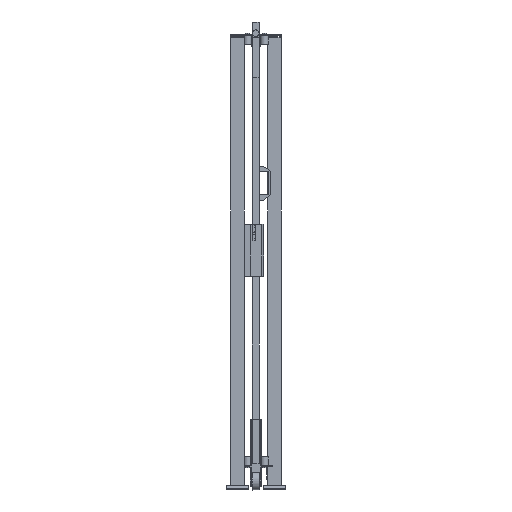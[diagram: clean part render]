
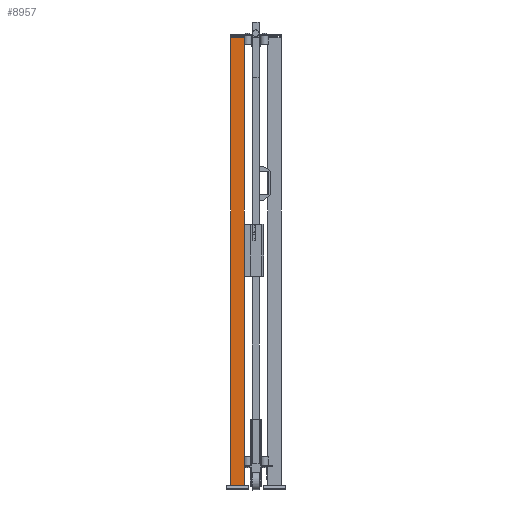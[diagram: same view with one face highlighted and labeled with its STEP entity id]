
A CAD part, left-side view. The second image highlights one B-rep face of the part: STEP entity #8957.
In plain terms, the highlighted planar face has unit normal (-1, 0, 0) as drawn and (0, 1, 0) by its records, which use the part's own axes.
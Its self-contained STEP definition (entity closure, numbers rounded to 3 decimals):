
#1086=FACE_OUTER_BOUND('',#1559,.T.);
#1559=EDGE_LOOP('',(#6774,#6775,#6776,#6777));
#2351=LINE('',#13647,#3514);
#2357=LINE('',#13659,#3520);
#2360=LINE('',#13664,#3523);
#2361=LINE('',#13666,#3524);
#3514=VECTOR('',#10735,1.);
#3520=VECTOR('',#10743,1.);
#3523=VECTOR('',#10750,1.);
#3524=VECTOR('',#10753,1.);
#4431=VERTEX_POINT('',#13644);
#4432=VERTEX_POINT('',#13646);
#4434=VERTEX_POINT('',#13652);
#4437=VERTEX_POINT('',#13657);
#5329=EDGE_CURVE('',#4431,#4432,#2351,.T.);
#5335=EDGE_CURVE('',#4437,#4434,#2357,.T.);
#5338=EDGE_CURVE('',#4432,#4437,#2360,.T.);
#5339=EDGE_CURVE('',#4431,#4434,#2361,.T.);
#6774=ORIENTED_EDGE('',*,*,#5339,.T.);
#6775=ORIENTED_EDGE('',*,*,#5335,.F.);
#6776=ORIENTED_EDGE('',*,*,#5338,.F.);
#6777=ORIENTED_EDGE('',*,*,#5329,.F.);
#8528=PLANE('',#9511);
#8957=ADVANCED_FACE('',(#1086),#8528,.F.);
#9511=AXIS2_PLACEMENT_3D('',#13665,#10751,#10752);
#10735=DIRECTION('',(-1.,0.,0.));
#10743=DIRECTION('',(1.,0.,0.));
#10750=DIRECTION('',(0.,0.,-1.));
#10751=DIRECTION('center_axis',(0.,-1.,0.));
#10752=DIRECTION('ref_axis',(0.,0.,-1.));
#10753=DIRECTION('',(0.,0.,-1.));
#13644=CARTESIAN_POINT('',(30.,30.,2020.));
#13646=CARTESIAN_POINT('',(-30.,30.,2020.));
#13647=CARTESIAN_POINT('',(0.,30.,2020.));
#13652=CARTESIAN_POINT('',(30.,30.,20.));
#13657=CARTESIAN_POINT('',(-30.,30.,20.));
#13659=CARTESIAN_POINT('',(0.,30.,20.));
#13664=CARTESIAN_POINT('',(-30.,30.,1020.));
#13665=CARTESIAN_POINT('Origin',(0.,30.,
1020.));
#13666=CARTESIAN_POINT('',(30.,30.,1020.));
